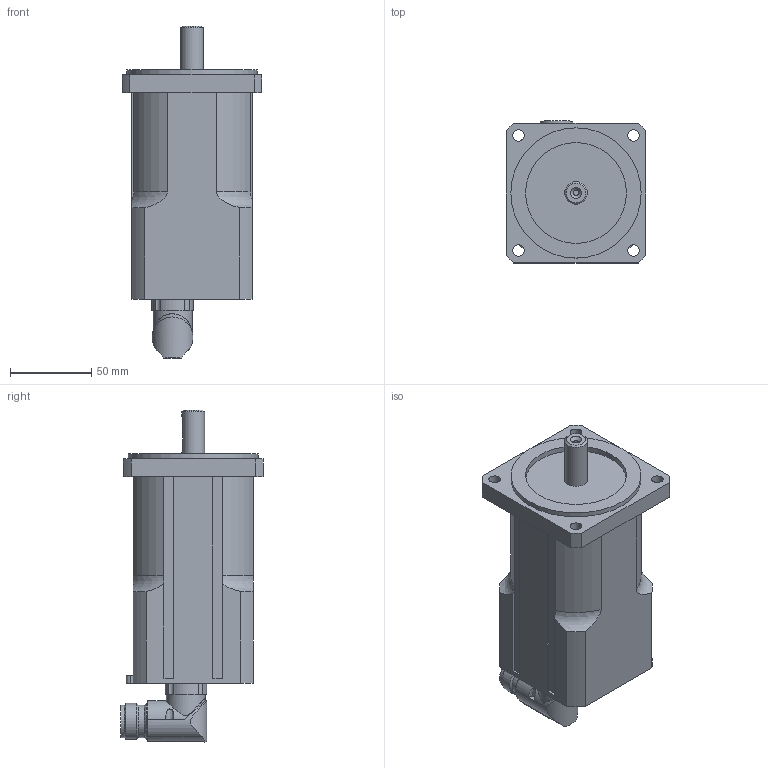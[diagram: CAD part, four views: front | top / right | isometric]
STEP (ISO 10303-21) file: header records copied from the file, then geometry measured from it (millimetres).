
FILE_DESCRIPTION(/* description */ ('Alibre Inc.'),/* implementation_level */ '2;1');
FILE_NAME(/* name */ 'export0',/* time_stamp */ '2011-03-24T12:49:42+01:00',/* author */ (''),/* organization */ (''),/* preprocessor_version */ 'ST-DEVELOPER v12',/* originating_system */ 'Alibre',/* authorisation */ '');
FILE_SCHEMA (('ALIBRE_SCHEMA','CONFIG_CONTROL_DESIGN'));
Length unit declared in the file: millimetre
Products named in the file (5): ID_1; ID_2
Bounding box: 86 x 87.51 x 204 mm (x, y, z)
Volume: 758399.1 mm3; surface area: 77875.2 mm2
Topology: 4 solids, 4 shells, 137 faces, 345 edges, 226 vertices
Faces by surface type: plane 61, cylinder 48, bspline 20, cone 4, torus 4
Full cylindrical faces by diameter (mm): 2.7 x4, 14 x1, 20 x3, 22 x2, 24 x1, 62 x1, 80 x1
Entity records: 14708 total; most frequent: CARTESIAN_POINT 4298, DIRECTION 1501, ORIENTED_EDGE 1464, EDGE_CURVE 732, AXIS2_PLACEMENT_3D 579, VERTEX_POINT 518, VECTOR 470, EDGE_LOOP 446
